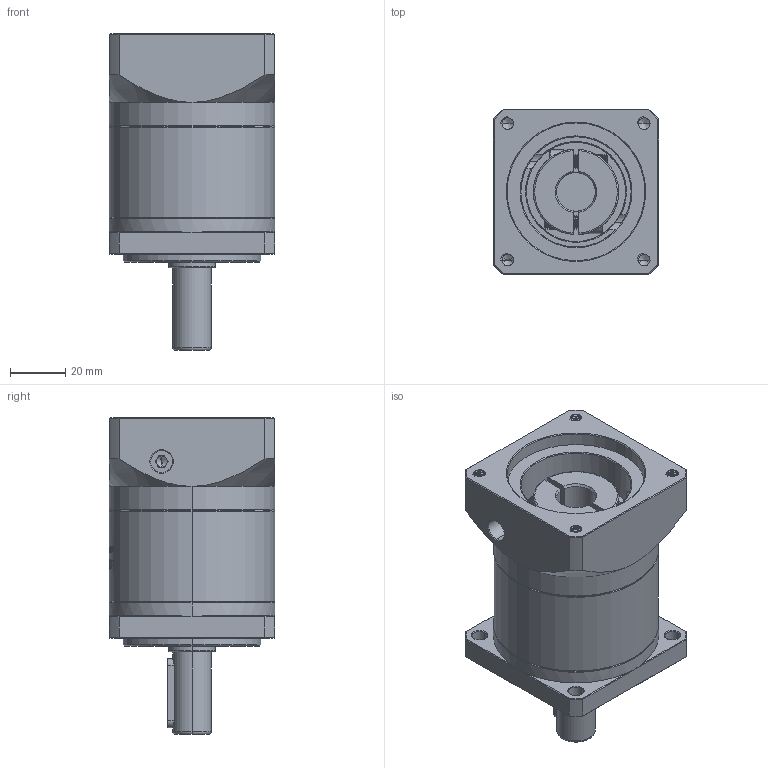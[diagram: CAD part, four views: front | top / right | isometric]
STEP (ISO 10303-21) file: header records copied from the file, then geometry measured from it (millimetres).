
FILE_DESCRIPTION (( 'STEP AP214' ), '1' );
FILE_NAME ('ZF060-D14-L1-P2-14-50-70-M5.step', '2023-08-16T04:22:15', ( '' ), ( '' ), 'SwSTEP 2.0', 'SolidWorks 2016', '' );
FILE_SCHEMA (( 'AUTOMOTIVE_DESIGN' ));
Length unit declared in the file: millimetre
Products named in the file (1): ZF060-D14-L1-P2-14-50-70-M5
Bounding box: 60 x 60 x 115 mm (x, y, z)
Volume: 220571.3 mm3; surface area: 44084.5 mm2
Topology: 6 solids, 6 shells, 1766 faces, 4782 edges, 3099 vertices
Faces by surface type: plane 794, cylinder 364, bspline 354, cone 234, torus 20
Entity records: 101449 total; most frequent: CARTESIAN_POINT 41856, ORIENTED_EDGE 9536, DIRECTION 6826, EDGE_CURVE 4768, VERTEX_POINT 3099, LINE 2426, VECTOR 2426, AXIS2_PLACEMENT_3D 2200
